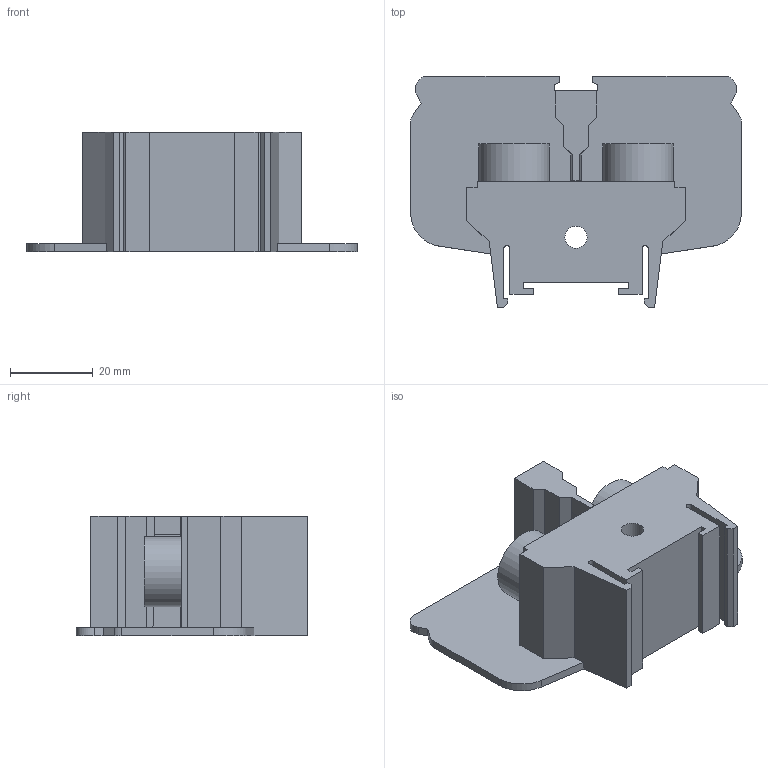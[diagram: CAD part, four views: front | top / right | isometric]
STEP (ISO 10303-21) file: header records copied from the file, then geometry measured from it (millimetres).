
FILE_DESCRIPTION(/* description */ (''),/* implementation_level */ '2;1');
FILE_NAME(/* name */ 'C:\Users\USERCADG105.FUJIDK\Desktop\2310920(TX-60F)HP 3D.stp',/* time_stamp */ '2024-12-02T18:05:00+09:00',/* author */ ('usercadg105'),/* organization */ (''),/* preprocessor_version */ 'ST-DEVELOPER v19',/* originating_system */ 'Autodesk Inventor 2023',/* authorisation */ '');
FILE_SCHEMA (('CONFIG_CONTROL_DESIGN'));
Length unit declared in the file: millimetre
Products named in the file (1): 2310920(TX-60F)HP 3D
Bounding box: 80 x 56 x 29 mm (x, y, z)
Volume: 45679.7 mm3; surface area: 17047.8 mm2
Topology: 1 solids, 1 shells, 79 faces, 225 edges, 150 vertices
Faces by surface type: plane 68, cylinder 11
Full cylindrical faces by diameter (mm): 5.4 x1, 17 x2
Entity records: 2588 total; most frequent: CARTESIAN_POINT 455, ORIENTED_EDGE 450, DIRECTION 407, EDGE_CURVE 225, LINE 203, VECTOR 203, VERTEX_POINT 150, AXIS2_PLACEMENT_3D 102
